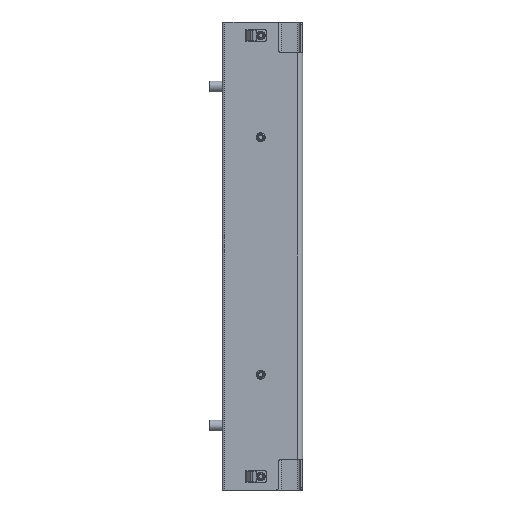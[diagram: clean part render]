
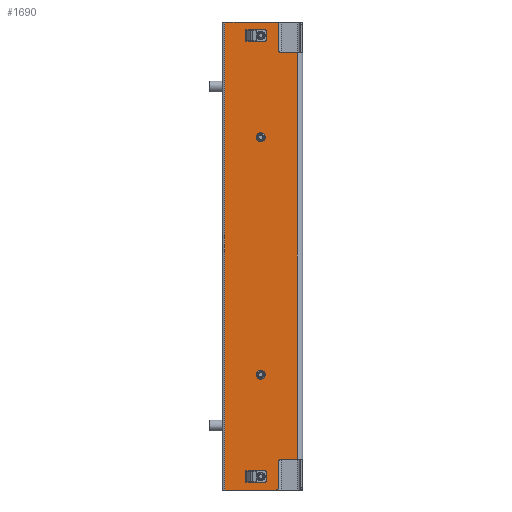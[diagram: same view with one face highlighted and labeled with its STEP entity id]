
A CAD part, left-side view. The second image highlights one B-rep face of the part: STEP entity #1690.
In plain terms, the highlighted planar face has unit normal (-1, 0, 0) as drawn and (1, 0, 0) by its records, which use the part's own axes.
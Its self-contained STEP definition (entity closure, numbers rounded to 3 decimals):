
#1690=ADVANCED_FACE('',(#2359,#2361,#2363,#2365,#2367),#2369,.F.);
#2359=FACE_BOUND('',#2360,.T.);
#2360=EDGE_LOOP('',(#7203,#7204,#7205,#7206,#7207,#7208,#7209,#7210,#7211,#7212,
#7213,#7214));
#2361=FACE_BOUND('',#2362,.T.);
#2362=EDGE_LOOP('',(#7215));
#2363=FACE_BOUND('',#2364,.T.);
#2364=EDGE_LOOP('',(#7216));
#2365=FACE_BOUND('',#2366,.T.);
#2366=EDGE_LOOP('',(#7217,#7218,#7219,#7220,#7221,#7222,#7223,#7224));
#2367=FACE_BOUND('',#2368,.T.);
#2368=EDGE_LOOP('',(#7225,#7226,#7227,#7228,#7229,#7230,#7231,#7232));
#2369=PLANE('',#2370);
#2370=AXIS2_PLACEMENT_3D('',#2371,#2372,#2373);
#2371=CARTESIAN_POINT('',(22.,96.073,0.));
#2372=DIRECTION('',(-1.,0.,0.));
#2373=DIRECTION('',(0.,-1.,0.));
#7203=ORIENTED_EDGE('',*,*,#9025,.F.);
#7204=ORIENTED_EDGE('',*,*,#9026,.T.);
#7205=ORIENTED_EDGE('',*,*,#9027,.F.);
#7206=ORIENTED_EDGE('',*,*,#9028,.T.);
#7207=ORIENTED_EDGE('',*,*,#9029,.T.);
#7208=ORIENTED_EDGE('',*,*,#9030,.T.);
#7209=ORIENTED_EDGE('',*,*,#9031,.F.);
#7210=ORIENTED_EDGE('',*,*,#9032,.T.);
#7211=ORIENTED_EDGE('',*,*,#9033,.F.);
#7212=ORIENTED_EDGE('',*,*,#9034,.F.);
#7213=ORIENTED_EDGE('',*,*,#9009,.T.);
#7214=ORIENTED_EDGE('',*,*,#9035,.F.);
#7215=ORIENTED_EDGE('',*,*,#9036,.T.);
#7216=ORIENTED_EDGE('',*,*,#9037,.T.);
#7217=ORIENTED_EDGE('',*,*,#9038,.F.);
#7218=ORIENTED_EDGE('',*,*,#9039,.T.);
#7219=ORIENTED_EDGE('',*,*,#9040,.F.);
#7220=ORIENTED_EDGE('',*,*,#9041,.T.);
#7221=ORIENTED_EDGE('',*,*,#9042,.T.);
#7222=ORIENTED_EDGE('',*,*,#9043,.T.);
#7223=ORIENTED_EDGE('',*,*,#9044,.T.);
#7224=ORIENTED_EDGE('',*,*,#9045,.T.);
#7225=ORIENTED_EDGE('',*,*,#9046,.F.);
#7226=ORIENTED_EDGE('',*,*,#9047,.T.);
#7227=ORIENTED_EDGE('',*,*,#9048,.T.);
#7228=ORIENTED_EDGE('',*,*,#9049,.T.);
#7229=ORIENTED_EDGE('',*,*,#9050,.T.);
#7230=ORIENTED_EDGE('',*,*,#9051,.T.);
#7231=ORIENTED_EDGE('',*,*,#9052,.F.);
#7232=ORIENTED_EDGE('',*,*,#9053,.T.);
#9009=EDGE_CURVE('',#9944,#9945,#9946,.T.);
#9025=EDGE_CURVE('',#9968,#9969,#9970,.F.);
#9026=EDGE_CURVE('',#9968,#9971,#9972,.F.);
#9027=EDGE_CURVE('',#9973,#9971,#9974,.F.);
#9028=EDGE_CURVE('',#9973,#9975,#9976,.T.);
#9029=EDGE_CURVE('',#9975,#9977,#9978,.T.);
#9030=EDGE_CURVE('',#9977,#9979,#9980,.F.);
#9031=EDGE_CURVE('',#9981,#9979,#9982,.F.);
#9032=EDGE_CURVE('',#9981,#9983,#9984,.T.);
#9033=EDGE_CURVE('',#9985,#9983,#9986,.F.);
#9034=EDGE_CURVE('',#9944,#9985,#9987,.T.);
#9035=EDGE_CURVE('',#9969,#9945,#9988,.T.);
#9036=EDGE_CURVE('',#9989,#9989,#9990,.T.);
#9037=EDGE_CURVE('',#9991,#9991,#9992,.F.);
#9038=EDGE_CURVE('',#9993,#9994,#9995,.F.);
#9039=EDGE_CURVE('',#9993,#9996,#9997,.T.);
#9040=EDGE_CURVE('',#9998,#9996,#9999,.F.);
#9041=EDGE_CURVE('',#9998,#10000,#10001,.T.);
#9042=EDGE_CURVE('',#10000,#10002,#10003,.T.);
#9043=EDGE_CURVE('',#10002,#10004,#10005,.T.);
#9044=EDGE_CURVE('',#10004,#10006,#10007,.T.);
#9045=EDGE_CURVE('',#10006,#9994,#10008,.T.);
#9046=EDGE_CURVE('',#10009,#10010,#10011,.F.);
#9047=EDGE_CURVE('',#10009,#10012,#10013,.F.);
#9048=EDGE_CURVE('',#10012,#10014,#10015,.F.);
#9049=EDGE_CURVE('',#10014,#10016,#10017,.T.);
#9050=EDGE_CURVE('',#10016,#10018,#10019,.F.);
#9051=EDGE_CURVE('',#10018,#10020,#10021,.F.);
#9052=EDGE_CURVE('',#10022,#10020,#10023,.F.);
#9053=EDGE_CURVE('',#10022,#10010,#10024,.F.);
#9944=VERTEX_POINT('',#11488);
#9945=VERTEX_POINT('',#11489);
#9946=LINE('',#11490,#11491);
#9968=VERTEX_POINT('',#11552);
#9969=VERTEX_POINT('',#11553);
#9970=CIRCLE('',#11554,2.);
#9971=VERTEX_POINT('',#11558);
#9972=LINE('',#11559,#11560);
#9973=VERTEX_POINT('',#11562);
#9974=CIRCLE('',#11563,2.);
#9975=VERTEX_POINT('',#11567);
#9976=LINE('',#11568,#11569);
#9977=VERTEX_POINT('',#11571);
#9978=LINE('',#11572,#11573);
#9979=VERTEX_POINT('',#11575);
#9980=LINE('',#11576,#11577);
#9981=VERTEX_POINT('',#11579);
#9982=CIRCLE('',#11580,2.);
#9983=VERTEX_POINT('',#11584);
#9984=LINE('',#11585,#11586);
#9985=VERTEX_POINT('',#11588);
#9986=CIRCLE('',#11589,2.);
#9987=LINE('',#11593,#11594);
#9988=LINE('',#11596,#11597);
#9989=VERTEX_POINT('',#11599);
#9990=CIRCLE('',#11600,3.25);
#9991=VERTEX_POINT('',#11604);
#9992=CIRCLE('',#11605,3.25);
#9993=VERTEX_POINT('',#11609);
#9994=VERTEX_POINT('',#11610);
#9995=CIRCLE('',#11611,1.);
#9996=VERTEX_POINT('',#11615);
#9997=LINE('',#11616,#11617);
#9998=VERTEX_POINT('',#11619);
#9999=CIRCLE('',#11620,1.);
#10000=VERTEX_POINT('',#11624);
#10001=LINE('',#11625,#11626);
#10002=VERTEX_POINT('',#11628);
#10003=LINE('',#11629,#11630);
#10004=VERTEX_POINT('',#11632);
#10005=LINE('',#11633,#11634);
#10006=VERTEX_POINT('',#11636);
#10007=LINE('',#11637,#11638);
#10008=LINE('',#11640,#11641);
#10009=VERTEX_POINT('',#11643);
#10010=VERTEX_POINT('',#11644);
#10011=CIRCLE('',#11645,1.);
#10012=VERTEX_POINT('',#11649);
#10013=LINE('',#11650,#11651);
#10014=VERTEX_POINT('',#11653);
#10015=LINE('',#11654,#11655);
#10016=VERTEX_POINT('',#11657);
#10017=LINE('',#11658,#11659);
#10018=VERTEX_POINT('',#11661);
#10019=LINE('',#11662,#11663);
#10020=VERTEX_POINT('',#11665);
#10021=LINE('',#11666,#11667);
#10022=VERTEX_POINT('',#11669);
#10023=CIRCLE('',#11670,1.);
#10024=LINE('',#11674,#11675);
#11488=CARTESIAN_POINT('',(22.,57.45,0.));
#11489=CARTESIAN_POINT('',(22.,57.45,345.));
#11490=CARTESIAN_POINT('',(22.,57.45,0.));
#11491=VECTOR('',#11492,1.);
#11492=DIRECTION('',(0.,0.,1.));
#11552=CARTESIAN_POINT('',(22.,18.,343.));
#11553=CARTESIAN_POINT('',(22.,20.,345.));
#11554=AXIS2_PLACEMENT_3D('',#11555,#11556,#11557);
#11555=CARTESIAN_POINT('',(22.,20.,343.));
#11556=DIRECTION('',(1.,0.,0.));
#11557=DIRECTION('',(0.,0.,1.));
#11558=CARTESIAN_POINT('',(22.,18.,324.5));
#11559=CARTESIAN_POINT('',(22.,18.,324.5));
#11560=VECTOR('',#11561,1.);
#11561=DIRECTION('',(0.,0.,1.));
#11562=CARTESIAN_POINT('',(22.,16.,322.5));
#11563=AXIS2_PLACEMENT_3D('',#11564,#11565,#11566);
#11564=CARTESIAN_POINT('',(22.,16.,324.5));
#11565=DIRECTION('',(-1.,0.,0.));
#11566=DIRECTION('',(0.,1.,0.));
#11567=CARTESIAN_POINT('',(22.,4.,322.5));
#11568=CARTESIAN_POINT('',(22.,16.,322.5));
#11569=VECTOR('',#11570,1.);
#11570=DIRECTION('',(0.,-1.,0.));
#11571=CARTESIAN_POINT('',(22.,4.,22.5));
#11572=CARTESIAN_POINT('',(22.,4.,322.5));
#11573=VECTOR('',#11574,1.);
#11574=DIRECTION('',(0.,0.,-1.));
#11575=CARTESIAN_POINT('',(22.,16.,22.5));
#11576=CARTESIAN_POINT('',(22.,16.,22.5));
#11577=VECTOR('',#11578,1.);
#11578=DIRECTION('',(0.,-1.,0.));
#11579=CARTESIAN_POINT('',(22.,18.,20.5));
#11580=AXIS2_PLACEMENT_3D('',#11581,#11582,#11583);
#11581=CARTESIAN_POINT('',(22.,16.,20.5));
#11582=DIRECTION('',(-1.,0.,0.));
#11583=DIRECTION('',(0.,0.,1.));
#11584=CARTESIAN_POINT('',(22.,18.,2.));
#11585=CARTESIAN_POINT('',(22.,18.,20.5));
#11586=VECTOR('',#11587,1.);
#11587=DIRECTION('',(0.,0.,-1.));
#11588=CARTESIAN_POINT('',(22.,20.,0.));
#11589=AXIS2_PLACEMENT_3D('',#11590,#11591,#11592);
#11590=CARTESIAN_POINT('',(22.,20.,2.));
#11591=DIRECTION('',(1.,0.,0.));
#11592=DIRECTION('',(0.,-1.,0.));
#11593=CARTESIAN_POINT('',(22.,57.45,0.));
#11594=VECTOR('',#11595,1.);
#11595=DIRECTION('',(0.,-1.,0.));
#11596=CARTESIAN_POINT('',(22.,20.,345.));
#11597=VECTOR('',#11598,1.);
#11598=DIRECTION('',(0.,1.,0.));
#11599=CARTESIAN_POINT('',(22.,31.,263.25));
#11600=AXIS2_PLACEMENT_3D('',#11601,#11602,#11603);
#11601=CARTESIAN_POINT('',(22.,31.,260.));
#11602=DIRECTION('',(-1.,0.,0.));
#11603=DIRECTION('',(0.,0.,1.));
#11604=CARTESIAN_POINT('',(22.,31.,81.75));
#11605=AXIS2_PLACEMENT_3D('',#11606,#11607,#11608);
#11606=CARTESIAN_POINT('',(22.,31.,85.));
#11607=DIRECTION('',(1.,0.,0.));
#11608=DIRECTION('',(0.,0.,-1.));
#11609=CARTESIAN_POINT('',(22.,26.95,6.75));
#11610=CARTESIAN_POINT('',(22.,27.95,5.75));
#11611=AXIS2_PLACEMENT_3D('',#11612,#11613,#11614);
#11612=CARTESIAN_POINT('',(22.,27.95,6.75));
#11613=DIRECTION('',(-1.,0.,0.));
#11614=DIRECTION('',(0.,0.,-1.));
#11615=CARTESIAN_POINT('',(22.,26.95,13.25));
#11616=CARTESIAN_POINT('',(22.,26.95,6.75));
#11617=VECTOR('',#11618,1.);
#11618=DIRECTION('',(0.,0.,1.));
#11619=CARTESIAN_POINT('',(22.,27.95,14.25));
#11620=AXIS2_PLACEMENT_3D('',#11621,#11622,#11623);
#11621=CARTESIAN_POINT('',(22.,27.95,13.25));
#11622=DIRECTION('',(-1.,0.,0.));
#11623=DIRECTION('',(0.,-1.,0.));
#11624=CARTESIAN_POINT('',(22.,41.95,14.25));
#11625=CARTESIAN_POINT('',(22.,27.95,14.25));
#11626=VECTOR('',#11627,1.);
#11627=DIRECTION('',(0.,1.,0.));
#11628=CARTESIAN_POINT('',(22.,41.95,13.75));
#11629=CARTESIAN_POINT('',(22.,41.95,14.25));
#11630=VECTOR('',#11631,1.);
#11631=DIRECTION('',(0.,0.,-1.));
#11632=CARTESIAN_POINT('',(22.,41.95,6.25));
#11633=CARTESIAN_POINT('',(22.,41.95,13.75));
#11634=VECTOR('',#11635,1.);
#11635=DIRECTION('',(0.,0.,-1.));
#11636=CARTESIAN_POINT('',(22.,41.95,5.75));
#11637=CARTESIAN_POINT('',(22.,41.95,6.25));
#11638=VECTOR('',#11639,1.);
#11639=DIRECTION('',(0.,0.,-1.));
#11640=CARTESIAN_POINT('',(22.,41.95,5.75));
#11641=VECTOR('',#11642,1.);
#11642=DIRECTION('',(0.,-1.,0.));
#11643=CARTESIAN_POINT('',(22.,27.95,339.25));
#11644=CARTESIAN_POINT('',(22.,26.95,338.25));
#11645=AXIS2_PLACEMENT_3D('',#11646,#11647,#11648);
#11646=CARTESIAN_POINT('',(22.,27.95,338.25));
#11647=DIRECTION('',(-1.,0.,0.));
#11648=DIRECTION('',(0.,-1.,0.));
#11649=CARTESIAN_POINT('',(22.,41.95,339.25));
#11650=CARTESIAN_POINT('',(22.,41.95,339.25));
#11651=VECTOR('',#11652,1.);
#11652=DIRECTION('',(0.,-1.,0.));
#11653=CARTESIAN_POINT('',(22.,41.95,338.75));
#11654=CARTESIAN_POINT('',(22.,41.95,338.75));
#11655=VECTOR('',#11656,1.);
#11656=DIRECTION('',(0.,0.,1.));
#11657=CARTESIAN_POINT('',(22.,41.95,331.25));
#11658=CARTESIAN_POINT('',(22.,41.95,338.75));
#11659=VECTOR('',#11660,1.);
#11660=DIRECTION('',(0.,0.,-1.));
#11661=CARTESIAN_POINT('',(22.,41.95,330.75));
#11662=CARTESIAN_POINT('',(22.,41.95,330.75));
#11663=VECTOR('',#11664,1.);
#11664=DIRECTION('',(0.,0.,1.));
#11665=CARTESIAN_POINT('',(22.,27.95,330.75));
#11666=CARTESIAN_POINT('',(22.,27.95,330.75));
#11667=VECTOR('',#11668,1.);
#11668=DIRECTION('',(0.,1.,0.));
#11669=CARTESIAN_POINT('',(22.,26.95,331.75));
#11670=AXIS2_PLACEMENT_3D('',#11671,#11672,#11673);
#11671=CARTESIAN_POINT('',(22.,27.95,331.75));
#11672=DIRECTION('',(-1.,0.,0.));
#11673=DIRECTION('',(0.,0.,-1.));
#11674=CARTESIAN_POINT('',(22.,26.95,338.25));
#11675=VECTOR('',#11676,1.);
#11676=DIRECTION('',(0.,0.,-1.));
